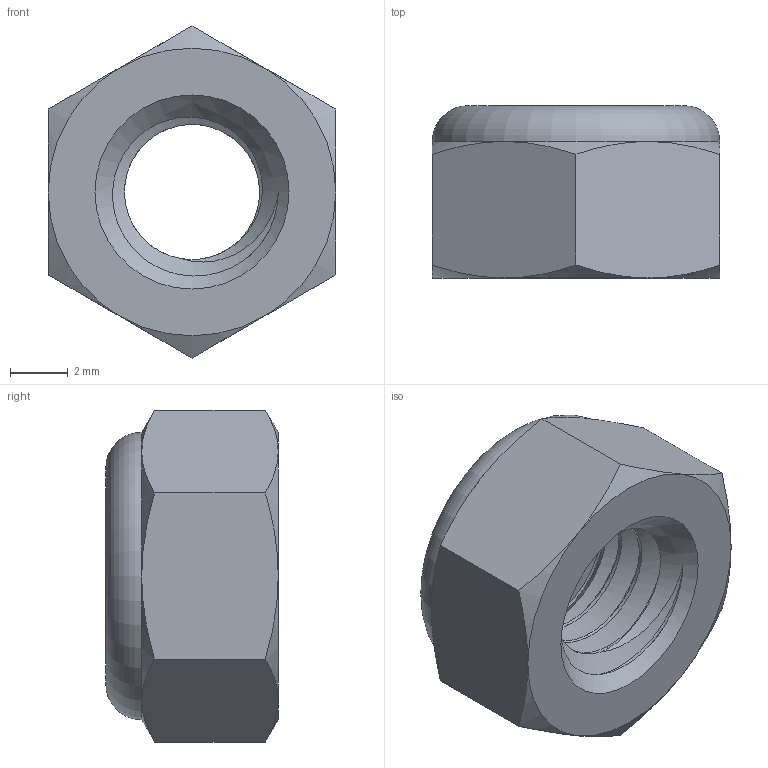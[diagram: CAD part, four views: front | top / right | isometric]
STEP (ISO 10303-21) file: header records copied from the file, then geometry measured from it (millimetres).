
FILE_DESCRIPTION(/* description */ (''),/* implementation_level */ '2;1');
FILE_NAME(/* name */ 'M5 Nyloc Nut.step',/* time_stamp */ '2025-04-22T13:03:48+05:30',/* author */ (''),/* organization */ (''),/* preprocessor_version */ 'ST-DEVELOPER v20.1',/* originating_system */ 'Autodesk Translation Framework v14.4.0.0',/* authorisation */ '');
FILE_SCHEMA (('AUTOMOTIVE_DESIGN { 1 0 10303 214 3 1 1 }'));
Length unit declared in the file: millimetre
Products named in the file (1): M5 Nyloc Nut
Bounding box: 10 x 6 x 11.55 mm (x, y, z)
Volume: 360.8 mm3; surface area: 513.4 mm2
Topology: 2 solids, 2 shells, 39 faces, 93 edges, 58 vertices
Faces by surface type: cone 15, cylinder 11, plane 10, bspline 2, torus 1
Full cylindrical faces by diameter (mm): 4.701 x2, 4.75 x1, 6 x5
Entity records: 1943 total; most frequent: CARTESIAN_POINT 1101, ORIENTED_EDGE 186, DIRECTION 150, EDGE_CURVE 93, AXIS2_PLACEMENT_3D 66, VERTEX_POINT 58, EDGE_LOOP 43, FACE_OUTER_BOUND 39
